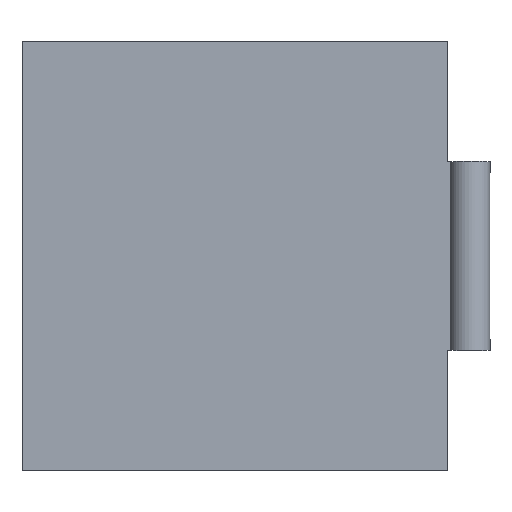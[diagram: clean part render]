
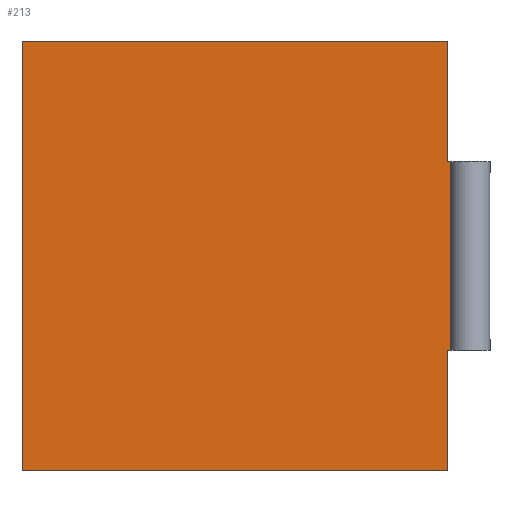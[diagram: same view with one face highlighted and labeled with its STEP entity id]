
A CAD part, top view. The second image highlights one B-rep face of the part: STEP entity #213.
In plain terms, the highlighted planar face has unit normal (0, 0, 1).
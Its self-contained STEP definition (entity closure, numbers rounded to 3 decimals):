
#24 = VERTEX_POINT('',#25);
#25 = CARTESIAN_POINT('',(32.4,0.,14.45));
#32 = PLANE('',#33);
#33 = AXIS2_PLACEMENT_3D('',#34,#35,#36);
#34 = CARTESIAN_POINT('',(32.4,0.,13.25));
#35 = DIRECTION('',(1.,0.,-0.));
#36 = DIRECTION('',(0.,0.,1.));
#44 = PLANE('',#45);
#45 = AXIS2_PLACEMENT_3D('',#46,#47,#48);
#46 = CARTESIAN_POINT('',(32.4,0.,13.25));
#47 = DIRECTION('',(-0.,1.,0.));
#48 = DIRECTION('',(0.,0.,1.));
#85 = VERTEX_POINT('',#86);
#86 = CARTESIAN_POINT('',(32.4,40.,14.45));
#100 = PLANE('',#101);
#101 = AXIS2_PLACEMENT_3D('',#102,#103,#104);
#102 = CARTESIAN_POINT('',(32.4,40.,13.25));
#103 = DIRECTION('',(-0.,1.,0.));
#104 = DIRECTION('',(0.,0.,1.));
#112 = EDGE_CURVE('',#24,#85,#113,.T.);
#113 = SURFACE_CURVE('',#114,(#118,#125),.PCURVE_S1.);
#114 = LINE('',#115,#116);
#115 = CARTESIAN_POINT('',(32.4,0.,14.45));
#116 = VECTOR('',#117,1.);
#117 = DIRECTION('',(-0.,1.,0.));
#118 = PCURVE('',#32,#119);
#119 = DEFINITIONAL_REPRESENTATION('',(#120),#124);
#120 = LINE('',#121,#122);
#121 = CARTESIAN_POINT('',(1.2,0.));
#122 = VECTOR('',#123,1.);
#123 = DIRECTION('',(0.,-1.));
#124 = ( GEOMETRIC_REPRESENTATION_CONTEXT(2) 
PARAMETRIC_REPRESENTATION_CONTEXT() REPRESENTATION_CONTEXT('2D SPACE',''
  ) );
#125 = PCURVE('',#126,#131);
#126 = PLANE('',#127);
#127 = AXIS2_PLACEMENT_3D('',#128,#129,#130);
#128 = CARTESIAN_POINT('',(32.4,0.,14.45));
#129 = DIRECTION('',(0.,0.,1.));
#130 = DIRECTION('',(1.,0.,-0.));
#131 = DEFINITIONAL_REPRESENTATION('',(#132),#136);
#132 = LINE('',#133,#134);
#133 = CARTESIAN_POINT('',(0.,0.));
#134 = VECTOR('',#135,1.);
#135 = DIRECTION('',(0.,1.));
#136 = ( GEOMETRIC_REPRESENTATION_CONTEXT(2) 
PARAMETRIC_REPRESENTATION_CONTEXT() REPRESENTATION_CONTEXT('2D SPACE',''
  ) );
#165 = EDGE_CURVE('',#24,#166,#168,.T.);
#166 = VERTEX_POINT('',#167);
#167 = CARTESIAN_POINT('',(72.,0.,14.45));
#168 = SURFACE_CURVE('',#169,(#173,#180),.PCURVE_S1.);
#169 = LINE('',#170,#171);
#170 = CARTESIAN_POINT('',(32.4,0.,14.45));
#171 = VECTOR('',#172,1.);
#172 = DIRECTION('',(1.,0.,-0.));
#173 = PCURVE('',#44,#174);
#174 = DEFINITIONAL_REPRESENTATION('',(#175),#179);
#175 = LINE('',#176,#177);
#176 = CARTESIAN_POINT('',(1.2,0.));
#177 = VECTOR('',#178,1.);
#178 = DIRECTION('',(0.,1.));
#179 = ( GEOMETRIC_REPRESENTATION_CONTEXT(2) 
PARAMETRIC_REPRESENTATION_CONTEXT() REPRESENTATION_CONTEXT('2D SPACE',''
  ) );
#180 = PCURVE('',#126,#181);
#181 = DEFINITIONAL_REPRESENTATION('',(#182),#186);
#182 = LINE('',#183,#184);
#183 = CARTESIAN_POINT('',(0.,0.));
#184 = VECTOR('',#185,1.);
#185 = DIRECTION('',(1.,0.));
#186 = ( GEOMETRIC_REPRESENTATION_CONTEXT(2) 
PARAMETRIC_REPRESENTATION_CONTEXT() REPRESENTATION_CONTEXT('2D SPACE',''
  ) );
#202 = PLANE('',#203);
#203 = AXIS2_PLACEMENT_3D('',#204,#205,#206);
#204 = CARTESIAN_POINT('',(72.,0.,13.25));
#205 = DIRECTION('',(1.,0.,-0.));
#206 = DIRECTION('',(0.,0.,1.));
#213 = ADVANCED_FACE('',(#214),#126,.T.);
#214 = FACE_BOUND('',#215,.T.);
#215 = EDGE_LOOP('',(#216,#239,#240,#241,#264,#292,#319,#347));
#216 = ORIENTED_EDGE('',*,*,#217,.F.);
#217 = EDGE_CURVE('',#85,#218,#220,.T.);
#218 = VERTEX_POINT('',#219);
#219 = CARTESIAN_POINT('',(72.,40.,14.45));
#220 = SURFACE_CURVE('',#221,(#225,#232),.PCURVE_S1.);
#221 = LINE('',#222,#223);
#222 = CARTESIAN_POINT('',(32.4,40.,14.45));
#223 = VECTOR('',#224,1.);
#224 = DIRECTION('',(1.,0.,-0.));
#225 = PCURVE('',#126,#226);
#226 = DEFINITIONAL_REPRESENTATION('',(#227),#231);
#227 = LINE('',#228,#229);
#228 = CARTESIAN_POINT('',(0.,40.));
#229 = VECTOR('',#230,1.);
#230 = DIRECTION('',(1.,0.));
#231 = ( GEOMETRIC_REPRESENTATION_CONTEXT(2) 
PARAMETRIC_REPRESENTATION_CONTEXT() REPRESENTATION_CONTEXT('2D SPACE',''
  ) );
#232 = PCURVE('',#100,#233);
#233 = DEFINITIONAL_REPRESENTATION('',(#234),#238);
#234 = LINE('',#235,#236);
#235 = CARTESIAN_POINT('',(1.2,0.));
#236 = VECTOR('',#237,1.);
#237 = DIRECTION('',(0.,1.));
#238 = ( GEOMETRIC_REPRESENTATION_CONTEXT(2) 
PARAMETRIC_REPRESENTATION_CONTEXT() REPRESENTATION_CONTEXT('2D SPACE',''
  ) );
#239 = ORIENTED_EDGE('',*,*,#112,.F.);
#240 = ORIENTED_EDGE('',*,*,#165,.T.);
#241 = ORIENTED_EDGE('',*,*,#242,.T.);
#242 = EDGE_CURVE('',#166,#243,#245,.T.);
#243 = VERTEX_POINT('',#244);
#244 = CARTESIAN_POINT('',(72.,11.2,14.45));
#245 = SURFACE_CURVE('',#246,(#250,#257),.PCURVE_S1.);
#246 = LINE('',#247,#248);
#247 = CARTESIAN_POINT('',(72.,0.,14.45));
#248 = VECTOR('',#249,1.);
#249 = DIRECTION('',(-0.,1.,0.));
#250 = PCURVE('',#126,#251);
#251 = DEFINITIONAL_REPRESENTATION('',(#252),#256);
#252 = LINE('',#253,#254);
#253 = CARTESIAN_POINT('',(39.6,0.));
#254 = VECTOR('',#255,1.);
#255 = DIRECTION('',(0.,1.));
#256 = ( GEOMETRIC_REPRESENTATION_CONTEXT(2) 
PARAMETRIC_REPRESENTATION_CONTEXT() REPRESENTATION_CONTEXT('2D SPACE',''
  ) );
#257 = PCURVE('',#202,#258);
#258 = DEFINITIONAL_REPRESENTATION('',(#259),#263);
#259 = LINE('',#260,#261);
#260 = CARTESIAN_POINT('',(1.2,0.));
#261 = VECTOR('',#262,1.);
#262 = DIRECTION('',(0.,-1.));
#263 = ( GEOMETRIC_REPRESENTATION_CONTEXT(2) 
PARAMETRIC_REPRESENTATION_CONTEXT() REPRESENTATION_CONTEXT('2D SPACE',''
  ) );
#264 = ORIENTED_EDGE('',*,*,#265,.T.);
#265 = EDGE_CURVE('',#243,#266,#268,.T.);
#266 = VERTEX_POINT('',#267);
#267 = CARTESIAN_POINT('',(72.297,11.2,14.45));
#268 = SURFACE_CURVE('',#269,(#273,#280),.PCURVE_S1.);
#269 = LINE('',#270,#271);
#270 = CARTESIAN_POINT('',(71.7,11.2,14.45));
#271 = VECTOR('',#272,1.);
#272 = DIRECTION('',(1.,0.,-0.));
#273 = PCURVE('',#126,#274);
#274 = DEFINITIONAL_REPRESENTATION('',(#275),#279);
#275 = LINE('',#276,#277);
#276 = CARTESIAN_POINT('',(39.3,11.2));
#277 = VECTOR('',#278,1.);
#278 = DIRECTION('',(1.,0.));
#279 = ( GEOMETRIC_REPRESENTATION_CONTEXT(2) 
PARAMETRIC_REPRESENTATION_CONTEXT() REPRESENTATION_CONTEXT('2D SPACE',''
  ) );
#280 = PCURVE('',#281,#286);
#281 = PLANE('',#282);
#282 = AXIS2_PLACEMENT_3D('',#283,#284,#285);
#283 = CARTESIAN_POINT('',(74.1,11.2,13.85));
#284 = DIRECTION('',(0.,1.,0.));
#285 = DIRECTION('',(0.,-0.,1.));
#286 = DEFINITIONAL_REPRESENTATION('',(#287),#291);
#287 = LINE('',#288,#289);
#288 = CARTESIAN_POINT('',(0.6,-2.4));
#289 = VECTOR('',#290,1.);
#290 = DIRECTION('',(0.,1.));
#291 = ( GEOMETRIC_REPRESENTATION_CONTEXT(2) 
PARAMETRIC_REPRESENTATION_CONTEXT() REPRESENTATION_CONTEXT('2D SPACE',''
  ) );
#292 = ORIENTED_EDGE('',*,*,#293,.T.);
#293 = EDGE_CURVE('',#266,#294,#296,.T.);
#294 = VERTEX_POINT('',#295);
#295 = CARTESIAN_POINT('',(72.297,28.8,14.45));
#296 = SURFACE_CURVE('',#297,(#301,#308),.PCURVE_S1.);
#297 = LINE('',#298,#299);
#298 = CARTESIAN_POINT('',(72.297,11.2,14.45));
#299 = VECTOR('',#300,1.);
#300 = DIRECTION('',(0.,1.,0.));
#301 = PCURVE('',#126,#302);
#302 = DEFINITIONAL_REPRESENTATION('',(#303),#307);
#303 = LINE('',#304,#305);
#304 = CARTESIAN_POINT('',(39.897,11.2));
#305 = VECTOR('',#306,1.);
#306 = DIRECTION('',(0.,1.));
#307 = ( GEOMETRIC_REPRESENTATION_CONTEXT(2) 
PARAMETRIC_REPRESENTATION_CONTEXT() REPRESENTATION_CONTEXT('2D SPACE',''
  ) );
#308 = PCURVE('',#309,#314);
#309 = CYLINDRICAL_SURFACE('',#310,1.9);
#310 = AXIS2_PLACEMENT_3D('',#311,#312,#313);
#311 = CARTESIAN_POINT('',(74.1,11.2,13.85));
#312 = DIRECTION('',(0.,1.,0.));
#313 = DIRECTION('',(0.,-0.,1.));
#314 = DEFINITIONAL_REPRESENTATION('',(#315),#318);
#315 = B_SPLINE_CURVE_WITH_KNOTS('',1,(#316,#317),.UNSPECIFIED.,.F.,.F.,
  (2,2),(0.,17.6),.PIECEWISE_BEZIER_KNOTS.);
#316 = CARTESIAN_POINT('',(5.034,0.));
#317 = CARTESIAN_POINT('',(5.034,17.6));
#318 = ( GEOMETRIC_REPRESENTATION_CONTEXT(2) 
PARAMETRIC_REPRESENTATION_CONTEXT() REPRESENTATION_CONTEXT('2D SPACE',''
  ) );
#319 = ORIENTED_EDGE('',*,*,#320,.F.);
#320 = EDGE_CURVE('',#321,#294,#323,.T.);
#321 = VERTEX_POINT('',#322);
#322 = CARTESIAN_POINT('',(72.,28.8,14.45));
#323 = SURFACE_CURVE('',#324,(#328,#335),.PCURVE_S1.);
#324 = LINE('',#325,#326);
#325 = CARTESIAN_POINT('',(71.7,28.8,14.45));
#326 = VECTOR('',#327,1.);
#327 = DIRECTION('',(1.,0.,-0.));
#328 = PCURVE('',#126,#329);
#329 = DEFINITIONAL_REPRESENTATION('',(#330),#334);
#330 = LINE('',#331,#332);
#331 = CARTESIAN_POINT('',(39.3,28.8));
#332 = VECTOR('',#333,1.);
#333 = DIRECTION('',(1.,0.));
#334 = ( GEOMETRIC_REPRESENTATION_CONTEXT(2) 
PARAMETRIC_REPRESENTATION_CONTEXT() REPRESENTATION_CONTEXT('2D SPACE',''
  ) );
#335 = PCURVE('',#336,#341);
#336 = PLANE('',#337);
#337 = AXIS2_PLACEMENT_3D('',#338,#339,#340);
#338 = CARTESIAN_POINT('',(74.1,28.8,13.85));
#339 = DIRECTION('',(0.,1.,0.));
#340 = DIRECTION('',(0.,-0.,1.));
#341 = DEFINITIONAL_REPRESENTATION('',(#342),#346);
#342 = LINE('',#343,#344);
#343 = CARTESIAN_POINT('',(0.6,-2.4));
#344 = VECTOR('',#345,1.);
#345 = DIRECTION('',(0.,1.));
#346 = ( GEOMETRIC_REPRESENTATION_CONTEXT(2) 
PARAMETRIC_REPRESENTATION_CONTEXT() REPRESENTATION_CONTEXT('2D SPACE',''
  ) );
#347 = ORIENTED_EDGE('',*,*,#348,.T.);
#348 = EDGE_CURVE('',#321,#218,#349,.T.);
#349 = SURFACE_CURVE('',#350,(#354,#361),.PCURVE_S1.);
#350 = LINE('',#351,#352);
#351 = CARTESIAN_POINT('',(72.,0.,14.45));
#352 = VECTOR('',#353,1.);
#353 = DIRECTION('',(-0.,1.,0.));
#354 = PCURVE('',#126,#355);
#355 = DEFINITIONAL_REPRESENTATION('',(#356),#360);
#356 = LINE('',#357,#358);
#357 = CARTESIAN_POINT('',(39.6,0.));
#358 = VECTOR('',#359,1.);
#359 = DIRECTION('',(0.,1.));
#360 = ( GEOMETRIC_REPRESENTATION_CONTEXT(2) 
PARAMETRIC_REPRESENTATION_CONTEXT() REPRESENTATION_CONTEXT('2D SPACE',''
  ) );
#361 = PCURVE('',#362,#367);
#362 = PLANE('',#363);
#363 = AXIS2_PLACEMENT_3D('',#364,#365,#366);
#364 = CARTESIAN_POINT('',(72.,0.,13.25));
#365 = DIRECTION('',(1.,0.,-0.));
#366 = DIRECTION('',(0.,0.,1.));
#367 = DEFINITIONAL_REPRESENTATION('',(#368),#372);
#368 = LINE('',#369,#370);
#369 = CARTESIAN_POINT('',(1.2,0.));
#370 = VECTOR('',#371,1.);
#371 = DIRECTION('',(0.,-1.));
#372 = ( GEOMETRIC_REPRESENTATION_CONTEXT(2) 
PARAMETRIC_REPRESENTATION_CONTEXT() REPRESENTATION_CONTEXT('2D SPACE',''
  ) );
